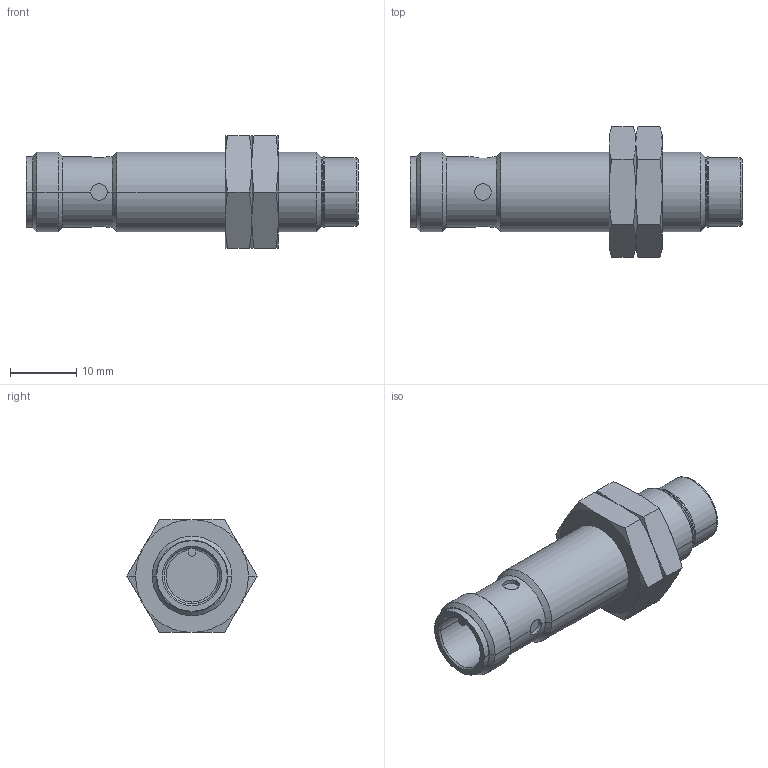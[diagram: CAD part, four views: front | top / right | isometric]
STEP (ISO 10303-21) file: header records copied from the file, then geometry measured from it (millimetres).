
FILE_DESCRIPTION( ( '' ), '1' );
FILE_NAME( '//partserver001.servicenet/client_exchange/iodir/jobs/output/wkb10618186_no0/STEP/ift230_2_03.stp', '2008-05-16T10:47:02', ( '' ), ( '' ), ' ', ' ', ' ' );
FILE_SCHEMA( ( 'CONFIG_CONTROL_DESIGN' ) );
Length unit declared in the file: millimetre
Products named in the file (3): 1; 2; 3
Bounding box: 50 x 19.63 x 17 mm (x, y, z)
Volume: 5972.9 mm3; surface area: 3599.9 mm2
Topology: 3 solids, 3 shells, 114 faces, 249 edges, 147 vertices
Faces by surface type: cone 50, plane 29, cylinder 27, torus 8
Entity records: 3340 total; most frequent: CARTESIAN_POINT 783, DIRECTION 542, ORIENTED_EDGE 498, EDGE_CURVE 249, AXIS2_PLACEMENT_3D 234, VERTEX_POINT 147, EDGE_LOOP 124, CIRCLE 117
